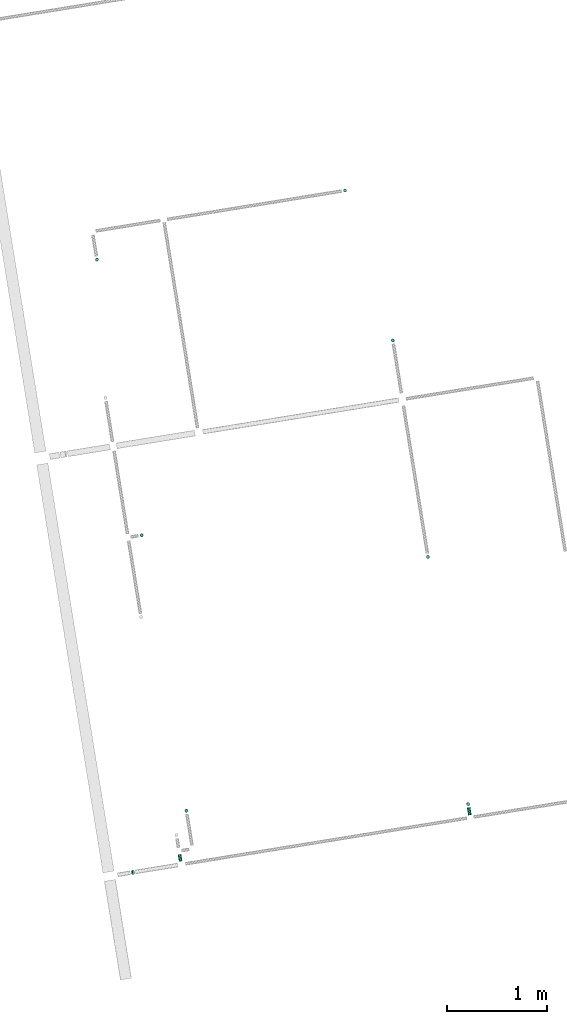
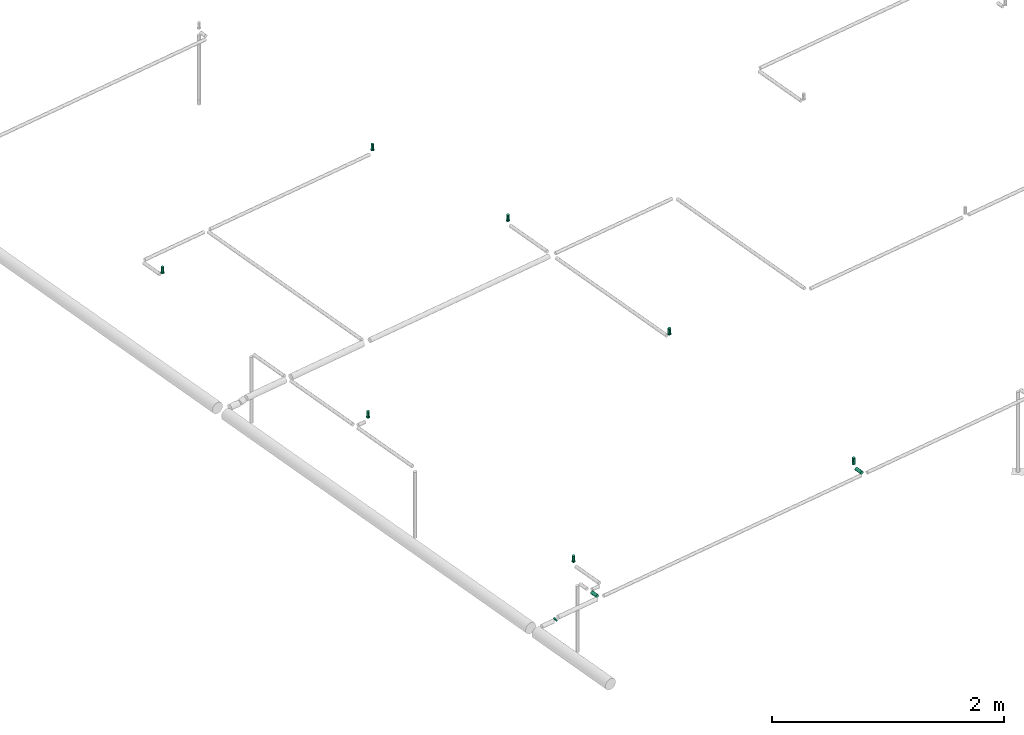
# One storey, part 6 of 11: 10 flow segments, 7 flow terminals.
"""IFC2X3 building model written with IfcOpenShell, lengths in millimetres."""

from ifc_helpers import new_model, entity, si_unit, converted_unit, derived_unit, direction, frame, frame_2d, origin, origin_with_axes, origin_2d_with_axis, place, context, subcontext, project, spatial, circle, extrude, source, transform, mapped, material, type_object, element, save


model = new_model("IFC2X3")

# Units and contexts
model_context = context("Model", 3, precision=0.01, world=origin(), true_north=direction((6.12323399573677e-17, 1.0)))
plan_context = context("Plan", 3, precision=1e-05, world=origin_with_axes())
body_context = subcontext(model_context, "Body", "Model", "MODEL_VIEW")
ifc_project = project(units=[converted_unit("PLANEANGLEUNIT", "DEGREE", entity("IfcPositiveLengthMeasure", 0.0174532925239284), si_unit("PLANEANGLEUNIT", "RADIAN"), dimensions=[0, 0, 0, 0, 0, 0, 0]), si_unit("AREAUNIT", "SQUARE_METRE"), si_unit("LENGTHUNIT", "METRE", prefix="MILLI"), si_unit("MASSUNIT", "GRAM", prefix="KILO"), si_unit("POWERUNIT", "WATT"), si_unit("PRESSUREUNIT", "PASCAL", prefix="KILO"), si_unit("FORCEUNIT", "NEWTON", prefix="KILO"), si_unit("ELECTRICVOLTAGEUNIT", "VOLT"), si_unit("ELECTRICCURRENTUNIT", "AMPERE"), si_unit("THERMODYNAMICTEMPERATUREUNIT", "DEGREE_CELSIUS"), si_unit("TIMEUNIT", "SECOND"), si_unit("VOLUMEUNIT", "CUBIC_METRE"), derived_unit("LINEARVELOCITYUNIT", [(si_unit("LENGTHUNIT", "METRE"), 1), (si_unit("TIMEUNIT", "SECOND"), -1)]), derived_unit("VOLUMETRICFLOWRATEUNIT", [(si_unit("VOLUMEUNIT", "CUBIC_METRE"), 1), (si_unit("TIMEUNIT", "SECOND"), -1)]), derived_unit("THERMALTRANSMITTANCEUNIT", [(si_unit("POWERUNIT", "WATT"), 1), (si_unit("THERMODYNAMICTEMPERATUREUNIT", "KELVIN"), -1), (si_unit("AREAUNIT", "SQUARE_METRE"), -1)]), derived_unit("SOUNDPRESSUREUNIT", [(si_unit("PRESSUREUNIT", "PASCAL"), 1)])], contexts=[model_context, plan_context])

# Site, building, storey
site_placement = place(None, frame((-0.00071070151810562, 0.00438415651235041, 0.0), z_axis=(0.0, 0.0, 1.0), x_axis=(-0.160236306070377, 0.987078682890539, 0.0)))
site = spatial("IfcSite", under=ifc_project, at=site_placement, Name="Default", CompositionType="ELEMENT")
building_placement = place(site_placement, origin_with_axes())
building = spatial("IfcBuilding", under=site, at=building_placement, CompositionType="ELEMENT")
storey_placement = place(building_placement, frame((0.0, 0.0, 50999.9999999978), z_axis=(0.0, 0.0, 1.0), x_axis=(1.0, 0.0, 0.0)))
storey = spatial("IfcBuildingStorey", under=building, at=storey_placement, Name="Nivå D", CompositionType="ELEMENT", Elevation=50999.9999999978)

# Flow terminals
ifc_material = material(Name="<Unnamed>")
fire_suppression_terminal_type = type_object("IfcFireSuppressionTerminalType", Name="UZ002T:Dyse/Spreder - UZ002T", PredefinedType="NOTDEFINED", material=ifc_material)
shared_shape = source(origin(), body_context, "Body", "SweptSolid", [
    extrude(circle(Radius=14.0, at=frame_2d((0.0, -2.26176240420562e-14), x_axis=(1.0, 0.0))), origin(), (0.0, 0.0, 1.0), 58.9999999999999),
])
for number, where, z_axis, x_axis in (
    (1, (769865.119644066, -593309.48173883, 3470.0), (0.0, 0.0, 1.0), (1.0, 0.0, 0.0)),
    (2, (775852.619644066, -590509.48173883, 3470.0), (0.0, 0.0, 1.0), (1.0, 0.0, 0.0)),
    (3, (776138.869644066, -593076.855808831, 3470.0), (0.0, 0.0, 1.0), (1.0, 0.0, 0.0)),
    (4, (772377.619644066, -593309.48173883, 3470.0), (0.0, 0.0, 1.0), (1.0, 0.0, 0.0)),
    (5, (774577.619644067, -593309.48173883, 3470.0), (0.0, 0.0, 1.0), (1.0, 0.0, 0.0)),
    (6, (770252.619644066, -590509.48173883, 3470.0), (0.0, 0.0, 1.0), (1.0, 0.0, 0.0)),
    (7, (773052.619644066, -590509.48173883, 3470.0), (0.0, 0.0, 1.0), (1.0, 0.0, 0.0)),
):
    element("IfcFlowTerminal", number, at=place(storey_placement, frame(where, z_axis=z_axis, x_axis=x_axis)), inside=storey, type_object=fire_suppression_terminal_type, material=ifc_material, Name="UZ002T:Dyse/Spreder - UZ002T", ObjectType="UZ002T:Dyse/Spreder - UZ002T", context=body_context, shape_type="MappedRepresentation", body=[
        mapped(shared_shape, transform((0.0, 0.0, 0.0), scale=1.0)),
    ])

# Flow segments
pipe_segment_type = type_object("IfcPipeSegmentType", Name="Pipe Types:Stålrør normaltykke", PredefinedType="NOTDEFINED")
flow_segment_1_placement = place(storey_placement, origin_with_axes())
element("IfcFlowSegment", 8, at=flow_segment_1_placement, inside=storey, type_object=pipe_segment_type, Name="Pipe Types:Stålrør normaltykke", ObjectType="Pipe Types:Stålrør normaltykke", context=body_context, shape_type="SweptSolid", body=[
    extrude(circle(Radius=16.8500004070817, at=origin_2d_with_axis()), frame((769865.119663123, -593309.48173883, 3463.80000372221), z_axis=(-2.06065576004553e-06, 0.0, 1.0), x_axis=(-1.0, 0.0, -2.06065576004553e-06)), (0.0, 0.0, 1.0), 9.24799627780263),
])
flow_segment_2_placement = place(storey_placement, origin_with_axes())
element("IfcFlowSegment", 9, at=flow_segment_2_placement, inside=storey, type_object=pipe_segment_type, Name="Pipe Types:Stålrør normaltykke", ObjectType="Pipe Types:Stålrør normaltykke", context=body_context, shape_type="SweptSolid", body=[
    extrude(circle(Radius=16.8500004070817, at=origin_2d_with_axis()), frame((775852.619648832, -590509.48173883, 3463.79999627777), z_axis=(-5.15369607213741e-07, 0.0, 1.0), x_axis=(-1.0, 0.0, -5.15369607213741e-07)), (0.0, 0.0, 1.0), 9.24800372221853),
])
flow_segment_3_placement = place(storey_placement, origin_with_axes())
element("IfcFlowSegment", 10, at=flow_segment_3_placement, inside=storey, type_object=pipe_segment_type, Name="Pipe Types:Stålrør normaltykke", ObjectType="Pipe Types:Stålrør normaltykke", context=body_context, shape_type="SweptSolid", body=[
    extrude(circle(Radius=16.8500004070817, at=origin_2d_with_axis()), frame((776138.869648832, -593076.855808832, 3463.8), z_axis=(-5.15384802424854e-07, 0.0, 1.0), x_axis=(-1.0, 0.0, -5.15384802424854e-07)), (0.0, 0.0, 1.0), 9.24799999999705),
])
flow_segment_4_placement = place(storey_placement, origin_with_axes())
element("IfcFlowSegment", 11, at=flow_segment_4_placement, inside=storey, type_object=pipe_segment_type, Name="Pipe Types:Stålrør normaltykke", ObjectType="Pipe Types:Stålrør normaltykke", context=body_context, shape_type="SweptSolid", body=[
    extrude(circle(Radius=16.8500004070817, at=origin_2d_with_axis()), frame((772377.619648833, -593309.481738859, 3463.79999627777), z_axis=(-5.15369607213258e-07, 0.0, 1.0), x_axis=(-1.0, 0.0, -5.15369607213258e-07)), (0.0, 0.0, 1.0), 9.24800372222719),
])
flow_segment_5_placement = place(storey_placement, origin_with_axes())
element("IfcFlowSegment", 12, at=flow_segment_5_placement, inside=storey, type_object=pipe_segment_type, Name="Pipe Types:Stålrør normaltykke", ObjectType="Pipe Types:Stålrør normaltykke", context=body_context, shape_type="SweptSolid", body=[
    extrude(circle(Radius=16.8500004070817, at=origin_2d_with_axis()), frame((774577.619648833, -593309.481738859, 3463.80000372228), z_axis=(-5.15385009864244e-07, 0.0, 1.0), x_axis=(-1.0, 0.0, -5.15385009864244e-07)), (0.0, 0.0, 1.0), 9.24799627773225),
])
flow_segment_6_placement = place(storey_placement, origin_with_axes())
element("IfcFlowSegment", 13, at=flow_segment_6_placement, inside=storey, type_object=pipe_segment_type, Name="Pipe Types:Stålrør normaltykke", ObjectType="Pipe Types:Stålrør normaltykke", context=body_context, shape_type="SweptSolid", body=[
    extrude(circle(Radius=16.8500004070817, at=origin_2d_with_axis()), frame((770252.619648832, -590509.48173883, 3463.80000372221), z_axis=(-5.15385009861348e-07, 0.0, 1.0), x_axis=(-1.0, 0.0, -5.15385009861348e-07)), (0.0, 0.0, 1.0), 9.24799627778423),
])
flow_segment_7_placement = place(storey_placement, origin_with_axes())
element("IfcFlowSegment", 14, at=flow_segment_7_placement, inside=storey, type_object=pipe_segment_type, Name="Pipe Types:Stålrør normaltykke", ObjectType="Pipe Types:Stålrør normaltykke", context=body_context, shape_type="SweptSolid", body=[
    extrude(circle(Radius=16.8500004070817, at=origin_2d_with_axis()), frame((773052.619648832, -590509.48173883, 3463.79999999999), z_axis=(-5.15384802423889e-07, 0.0, 1.0), x_axis=(-1.0, 0.0, -5.15384802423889e-07)), (0.0, 0.0, 1.0), 9.24800000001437),
])
flow_segment_8_placement = place(storey_placement, origin_with_axes())
element("IfcFlowSegment", 15, at=flow_segment_8_placement, inside=storey, type_object=pipe_segment_type, Name="Pipe Types:Stålrør normaltykke", ObjectType="Pipe Types:Stålrør normaltykke", context=body_context, shape_type="SweptSolid", body=[
    extrude(circle(Radius=16.8500004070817, at=origin_2d_with_axis()), frame((769753.739509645, -593309.48173883, 3430.0), z_axis=(1.0, 0.0, 0.0), x_axis=(0.0, -1.0, 0.0)), (0.0, 0.0, 1.0), 77.5801534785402),
])
flow_segment_9_placement = place(storey_placement, origin_with_axes())
element("IfcFlowSegment", 16, at=flow_segment_9_placement, inside=storey, type_object=pipe_segment_type, Name="Pipe Types:Stålrør normaltykke", ObjectType="Pipe Types:Stålrør normaltykke", context=body_context, shape_type="SweptSolid", body=[
    extrude(circle(Radius=21.2000007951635, at=origin_2d_with_axis()), frame((769728.389509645, -589874.343852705, 3417.68056570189), z_axis=(0.0, -0.866025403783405, 0.500000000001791), x_axis=(-1.0, 0.0, 0.0)), (0.0, 0.0, 1.0), 13.2778228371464),
])
flow_segment_10_placement = place(storey_placement, origin_with_axes())
element("IfcFlowSegment", 17, at=flow_segment_10_placement, inside=storey, type_object=pipe_segment_type, Name="Pipe Types:Stålrør normaltykke", ObjectType="Pipe Types:Stålrør normaltykke", context=body_context, shape_type="SweptSolid", body=[
    extrude(circle(Radius=16.8500004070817, at=origin_2d_with_axis()), frame((769760.189509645, -590371.557105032, 3430.0), z_axis=(1.0, 0.0, 0.0), x_axis=(0.0, -1.0, 0.0)), (0.0, 0.0, 1.0), 71.1301572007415),
])

save(model, "model.ifc")
